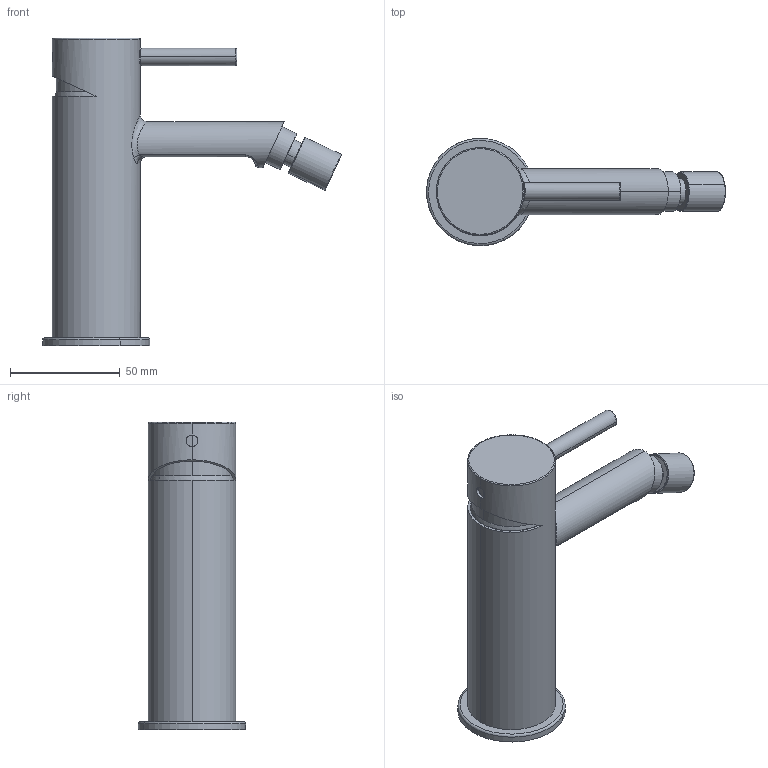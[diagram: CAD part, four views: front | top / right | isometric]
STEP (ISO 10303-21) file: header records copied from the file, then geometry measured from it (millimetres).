
FILE_DESCRIPTION (( 'STEP AP214' ), '1' );
FILE_NAME ('49411110 x architetti.STEP', '2024-09-25T06:53:17', ( '' ), ( '' ), 'SwSTEP 2.0', 'SolidWorks 2020', '' );
FILE_SCHEMA (( 'AUTOMOTIVE_DESIGN' ));
Length unit declared in the file: millimetre
Products named in the file (1): 49411110 x architetti
Bounding box: 136.18 x 48.9 x 140.2 mm (x, y, z)
Surface area: 42697.6 mm2 (no closed solid volume)
Topology: 0 solids, 13 shells, 810 faces, 1884 edges, 1092 vertices
Faces by surface type: cylinder 394, plane 346, bspline 45, cone 21, torus 4
Full cylindrical faces by diameter (mm): 15.1 x2
Entity records: 43958 total; most frequent: CARTESIAN_POINT 19189, ORIENTED_EDGE 3737, DIRECTION 2590, EDGE_CURVE 1878, VERTEX_POINT 1091, AXIS2_PLACEMENT_3D 885, B_SPLINE_CURVE_WITH_KNOTS 837, EDGE_LOOP 822
